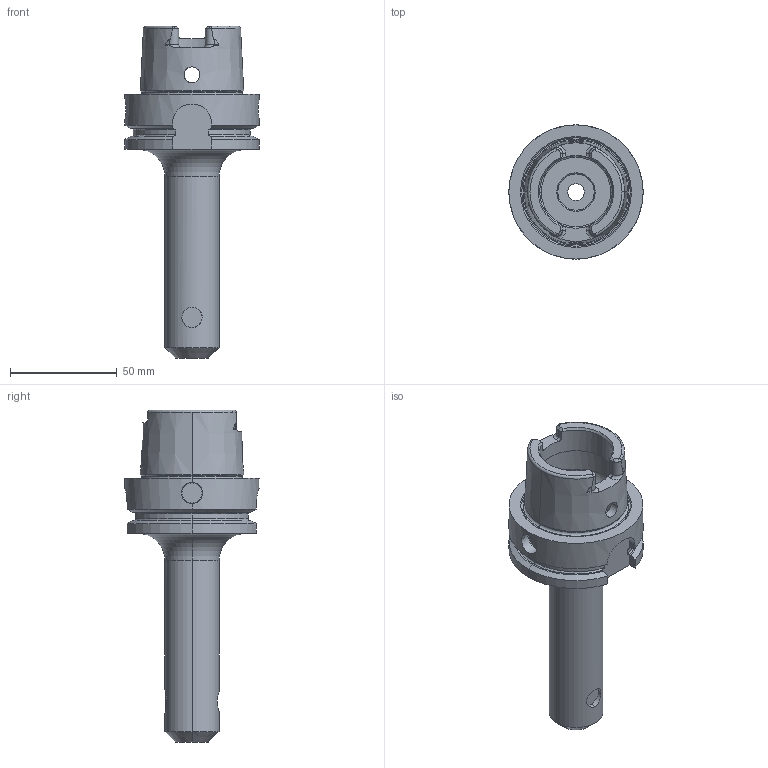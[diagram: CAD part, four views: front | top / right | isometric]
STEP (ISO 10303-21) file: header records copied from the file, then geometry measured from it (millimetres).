
FILE_DESCRIPTION (( 'STEP AP214' ), '1' );
FILE_NAME ('RHSK63AEM0375488.STEP', '2019-02-08T14:50:14', ( '' ), ( '' ), 'SwSTEP 2.0', 'SolidWorks 2019', '' );
FILE_SCHEMA (( 'AUTOMOTIVE_DESIGN' ));
Length unit declared in the file: inch
Products named in the file (1): RHSK63AEM0375488
Bounding box: 62.94 x 62.94 x 155.72 mm (x, y, z)
Volume: 126195.3 mm3; surface area: 32744 mm2
Topology: 1 solids, 1 shells, 194 faces, 482 edges, 295 vertices
Faces by surface type: plane 64, cylinder 58, cone 45, torus 27
Entity records: 6819 total; most frequent: CARTESIAN_POINT 2202, DIRECTION 963, ORIENTED_EDGE 960, EDGE_CURVE 480, AXIS2_PLACEMENT_3D 388, VERTEX_POINT 295, EDGE_LOOP 207, FACE_OUTER_BOUND 194
